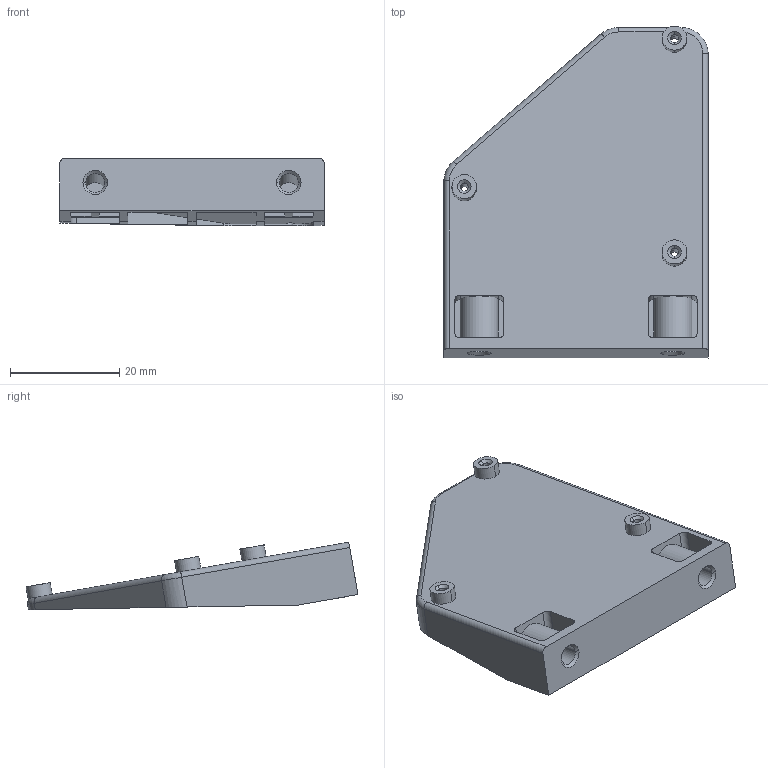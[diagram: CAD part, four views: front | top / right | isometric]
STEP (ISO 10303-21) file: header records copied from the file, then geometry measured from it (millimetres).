
FILE_DESCRIPTION((''),'2;1');
FILE_NAME('TOU-TX-ZJ','2025-07-12T10:34:08',('Administrator'),(''),'CREO PARAMETRIC BY PTC INC, 2022073','CREO PARAMETRIC BY PTC INC, 2022073','');
FILE_SCHEMA(('CONFIG_CONTROL_DESIGN'));
Length unit declared in the file: millimetre
Products named in the file (1): TOU-TX-ZJ
Bounding box: 48.5 x 60.89 x 12.39 mm (x, y, z)
Volume: 8437.4 mm3; surface area: 9233.5 mm2
Topology: 1 solids, 1 shells, 116 faces, 321 edges, 212 vertices
Faces by surface type: plane 63, cylinder 40, cone 10, torus 3
Entity records: 3788 total; most frequent: CARTESIAN_POINT 693, ORIENTED_EDGE 642, DIRECTION 641, EDGE_CURVE 321, AXIS2_PLACEMENT_3D 215, VERTEX_POINT 212, VECTOR 211, LINE 211
